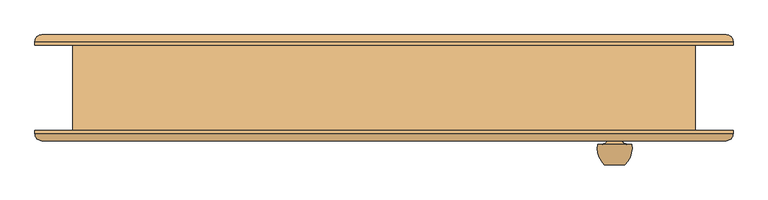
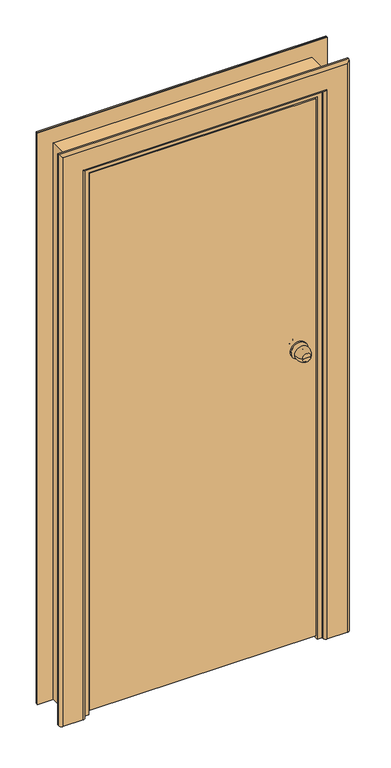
"""IFC4 building model written with IfcOpenShell, lengths in millimetres: door geometry, Внутренняя дверь 1-Навесная - 6629-88 : ДГ 21-9Л  ГОСТ 6629-88."""

from ifc_helpers import new_model, si_unit, point, frame, origin, place, context, project, spatial, polyline, circle_curve, ellipse_curve, trimmed, outline, extrude, faceted_brep, source, transform, mapped, element, save
from ifc_brep_helpers import plane_surface, cylinder_surface, revolved_surface, advanced_brep


def door_d1ce50e7(model_context):
    return source(origin(), model_context, "Body", "SolidModel", [
        advanced_brep(
        [(352.0, -112.5, 1100.0), (322.0, -112.5, 1100.0), (337.0, -112.5, 1100.0), (362.0, -82.5, 1100.0), (312.0, -82.5, 1100.0), (355.0, -82.5, 1100.0), (319.0, -82.5, 1100.0), (347.0, -74.5, 1100.0), (327.0, -74.5, 1100.0), (347.0, -68.5, 1100.0), (327.0, -68.5, 1100.0), (307.0, -68.5, 1100.0), (367.0, -68.5, 1100.0), (307.0, -62.5, 1100.0), (367.0, -62.5, 1100.0)],
        [
            (0, 1, circle_curve(frame((337.0, -112.5, 1100.0), z_axis=(0.0, -1.0, 0.0), x_axis=(-1.0, 0.0, 0.0)), 15.0)),
            (1, 2),
            (2, 0),
            (1, 0, circle_curve(frame((337.0, -112.5, 1100.0), z_axis=(0.0, -1.0, 0.0), x_axis=(-1.0, 0.0, 0.0)), 15.0)),
            (0, 3, circle_curve(frame((327.3773735, -87.6257912, 1100.0), z_axis=(0.0, 0.0, 1.0), x_axis=(-1.0, 0.0, 0.0)), 35.0)),
            (3, 4, circle_curve(frame((337.0, -82.5, 1100.0), z_axis=(0.0, -1.0, 0.0), x_axis=(-1.0, 0.0, 0.0)), 25.0)),
            (4, 1, circle_curve(frame((346.6226265, -87.6257912, 1100.0), z_axis=(0.0, 0.0, 1.0), x_axis=(1.0, 0.0, 0.0)), 35.0)),
            (4, 3, circle_curve(frame((337.0, -82.5, 1100.0), z_axis=(0.0, -1.0, 0.0), x_axis=(-1.0, 0.0, 0.0)), 25.0)),
            (3, 5),
            (5, 6, circle_curve(frame((337.0, -82.5, 1100.0), z_axis=(0.0, -1.0, 0.0), x_axis=(-1.0, 0.0, 0.0)), 18.0)),
            (6, 4),
            (6, 5, circle_curve(frame((337.0, -82.5, 1100.0), z_axis=(0.0, -1.0, 0.0), x_axis=(-1.0, 0.0, 0.0)), 18.0)),
            (5, 7, circle_curve(frame((355.0, -74.5, 1100.0), z_axis=(0.0, 0.0, -1.0), x_axis=(-1.0, 0.0, 0.0)), 8.0)),
            (7, 8, circle_curve(frame((337.0, -74.5, 1100.0), z_axis=(0.0, -1.0, 0.0), x_axis=(-1.0, 0.0, 0.0)), 10.0)),
            (8, 6, circle_curve(frame((319.0, -74.5, 1100.0), z_axis=(0.0, 0.0, -1.0), x_axis=(1.0, 0.0, 0.0)), 8.0)),
            (8, 7, circle_curve(frame((337.0, -74.5, 1100.0), z_axis=(0.0, -1.0, 0.0), x_axis=(-1.0, 0.0, 0.0)), 10.0)),
            (7, 9),
            (9, 10, circle_curve(frame((337.0, -68.5, 1100.0), z_axis=(0.0, -1.0, 0.0), x_axis=(-1.0, 0.0, 0.0)), 10.0)),
            (10, 8),
            (10, 9, circle_curve(frame((337.0, -68.5, 1100.0), z_axis=(0.0, -1.0, 0.0), x_axis=(-1.0, 0.0, 0.0)), 10.0)),
            (11, 12, circle_curve(frame((337.0, -68.5, 1100.0), z_axis=(0.0, -1.0, 0.0), x_axis=(1.0, 0.0, 0.0)), 30.0)),
            (12, 11, circle_curve(frame((337.0, -68.5, 1100.0), z_axis=(0.0, -1.0, 0.0), x_axis=(1.0, 0.0, 0.0)), 30.0)),
            (13, 14, circle_curve(frame((337.0, -62.5, 1100.0), z_axis=(0.0, 1.0, 0.0), x_axis=(1.0, 0.0, 0.0)), 30.0)),
            (14, 13, circle_curve(frame((337.0, -62.5, 1100.0), z_axis=(0.0, 1.0, 0.0), x_axis=(1.0, 0.0, 0.0)), 30.0)),
            (11, 13),
            (14, 12),
        ],
        [
            plane_surface(frame((337.0, -112.5, 1100.0), z_axis=(0.0, -1.0, 0.0), x_axis=(-1.0, 0.0, 0.0))),
            revolved_surface(trimmed(ellipse_curve(frame((346.6226265, -87.6257912, 1100.0), z_axis=(0.0, 0.0, -1.0), x_axis=(1.0, 0.0, 0.0)), 35.0, 35.0), [point((322.0, -112.5, 1100.0))], [point((312.0, -82.5, 1100.0))], True, "CARTESIAN"), (337.0, -142.5, 1100.0), (0.0, 1.0, 0.0)),
            plane_surface(frame((337.0, -82.5, 1100.0), z_axis=(0.0, 1.0, 0.0), x_axis=(-1.0, 0.0, 0.0))),
            revolved_surface(trimmed(ellipse_curve(frame((319.0, -74.5, 1100.0), z_axis=(0.0, 0.0, 1.0), x_axis=(1.0, 0.0, 0.0)), 8.0, 8.0), [point((319.0, -82.5, 1100.0))], [point((327.0, -74.5, 1100.0))], True, "CARTESIAN"), (337.0, -142.5, 1100.0), (0.0, 1.0, 0.0)),
            cylinder_surface(frame((337.0, -142.5, 1100.0), z_axis=(0.0, 1.0, 0.0), x_axis=(-1.0, 0.0, 0.0)), 10.0),
            plane_surface(frame((367.0, -68.5, 1100.0), z_axis=(0.0, -1.0, 0.0), x_axis=(0.0, 0.0, 1.0))),
            plane_surface(frame((367.0, -62.5, 1100.0), z_axis=(0.0, 1.0, 0.0), x_axis=(0.0, 0.0, -1.0))),
            cylinder_surface(frame((337.0, -62.5, 1100.0), z_axis=(0.0, -1.0, 0.0), x_axis=(1.0, 0.0, 0.0)), 30.0),
        ],
        [
            (0, [[1, 2, 3]]),
            (0, [[-2, 4, -3]]),
            (1, [[-1, 5, 6, 7]]),
            (1, [[-4, -7, 8, -5]]),
            (2, [[-6, 9, 10, 11]]),
            (2, [[-8, -11, 12, -9]]),
            (3, [[-10, 13, 14, 15]]),
            (3, [[-12, -15, 16, -13]]),
            (4, [[-14, 17, 18, 19]]),
            (4, [[-16, -19, 20, -17]]),
            (5, [[21, 22], [-18, -20]]),
            (6, [[23, 24]]),
            (7, [[-21, 25, -24, 26]]),
            (7, [[-22, -26, -23, -25]]),
        ],
    ),
        advanced_brep(
        [(322.0, 24.5, 1100.0), (352.0, 24.5, 1100.0), (337.0, 24.5, 1100.0), (312.0, -5.5, 1100.0), (362.0, -5.5, 1100.0), (319.0, -5.5, 1100.0), (355.0, -5.5, 1100.0), (327.0, -13.5, 1100.0), (347.0, -13.5, 1100.0), (327.0, -19.5, 1100.0), (347.0, -19.5, 1100.0), (367.0, -19.5, 1100.0), (307.0, -19.5, 1100.0), (367.0, -25.5, 1100.0), (307.0, -25.5, 1100.0)],
        [
            (0, 1, circle_curve(frame((337.0, 24.5, 1100.0), z_axis=(0.0, 1.0, 0.0), x_axis=(1.0, 0.0, 0.0)), 15.0)),
            (1, 2),
            (2, 0),
            (1, 0, circle_curve(frame((337.0, 24.5, 1100.0), z_axis=(0.0, 1.0, 0.0), x_axis=(1.0, 0.0, 0.0)), 15.0)),
            (0, 3, circle_curve(frame((346.6226265, -0.3742088, 1100.0), z_axis=(0.0, 0.0, 1.0), x_axis=(1.0, 0.0, 0.0)), 35.0)),
            (3, 4, circle_curve(frame((337.0, -5.5, 1100.0), z_axis=(0.0, 1.0, 0.0), x_axis=(1.0, 0.0, 0.0)), 25.0)),
            (4, 1, circle_curve(frame((327.3773735, -0.3742088, 1100.0), z_axis=(0.0, 0.0, 1.0), x_axis=(-1.0, 0.0, 0.0)), 35.0)),
            (4, 3, circle_curve(frame((337.0, -5.5, 1100.0), z_axis=(0.0, 1.0, 0.0), x_axis=(1.0, 0.0, 0.0)), 25.0)),
            (3, 5),
            (5, 6, circle_curve(frame((337.0, -5.5, 1100.0), z_axis=(0.0, 1.0, 0.0), x_axis=(1.0, 0.0, 0.0)), 18.0)),
            (6, 4),
            (6, 5, circle_curve(frame((337.0, -5.5, 1100.0), z_axis=(0.0, 1.0, 0.0), x_axis=(1.0, 0.0, 0.0)), 18.0)),
            (5, 7, circle_curve(frame((319.0, -13.5, 1100.0), z_axis=(0.0, 0.0, -1.0), x_axis=(1.0, 0.0, 0.0)), 8.0)),
            (7, 8, circle_curve(frame((337.0, -13.5, 1100.0), z_axis=(0.0, 1.0, 0.0), x_axis=(1.0, 0.0, 0.0)), 10.0)),
            (8, 6, circle_curve(frame((355.0, -13.5, 1100.0), z_axis=(0.0, 0.0, -1.0), x_axis=(-1.0, 0.0, 0.0)), 8.0)),
            (8, 7, circle_curve(frame((337.0, -13.5, 1100.0), z_axis=(0.0, 1.0, 0.0), x_axis=(1.0, 0.0, 0.0)), 10.0)),
            (7, 9),
            (9, 10, circle_curve(frame((337.0, -19.5, 1100.0), z_axis=(0.0, 1.0, 0.0), x_axis=(1.0, 0.0, 0.0)), 10.0)),
            (10, 8),
            (10, 9, circle_curve(frame((337.0, -19.5, 1100.0), z_axis=(0.0, 1.0, 0.0), x_axis=(1.0, 0.0, 0.0)), 10.0)),
            (11, 12, circle_curve(frame((337.0, -19.5, 1100.0), z_axis=(0.0, 1.0, 0.0), x_axis=(-1.0, 0.0, 0.0)), 30.0)),
            (12, 11, circle_curve(frame((337.0, -19.5, 1100.0), z_axis=(0.0, 1.0, 0.0), x_axis=(-1.0, 0.0, 0.0)), 30.0)),
            (13, 14, circle_curve(frame((337.0, -25.5, 1100.0), z_axis=(0.0, -1.0, 0.0), x_axis=(-1.0, 0.0, 0.0)), 30.0)),
            (14, 13, circle_curve(frame((337.0, -25.5, 1100.0), z_axis=(0.0, -1.0, 0.0), x_axis=(-1.0, 0.0, 0.0)), 30.0)),
            (11, 13),
            (14, 12),
        ],
        [
            plane_surface(frame((337.0, 24.5, 1100.0), z_axis=(0.0, 1.0, 0.0), x_axis=(1.0, 0.0, 0.0))),
            revolved_surface(trimmed(ellipse_curve(frame((327.3773735, -0.3742088, 1100.0), z_axis=(0.0, 0.0, -1.0), x_axis=(-1.0, 0.0, 0.0)), 35.0, 35.0), [point((352.0, 24.5, 1100.0))], [point((362.0, -5.5, 1100.0))], True, "CARTESIAN"), (337.0, 54.5, 1100.0), (0.0, -1.0, 0.0)),
            plane_surface(frame((337.0, -5.5, 1100.0), z_axis=(0.0, -1.0, 0.0), x_axis=(1.0, 0.0, 0.0))),
            revolved_surface(trimmed(ellipse_curve(frame((355.0, -13.5, 1100.0), z_axis=(0.0, 0.0, 1.0), x_axis=(-1.0, 0.0, 0.0)), 8.0, 8.0), [point((355.0, -5.5, 1100.0))], [point((347.0, -13.5, 1100.0))], True, "CARTESIAN"), (337.0, 54.5, 1100.0), (0.0, -1.0, 0.0)),
            cylinder_surface(frame((337.0, 54.5, 1100.0), z_axis=(0.0, -1.0, 0.0), x_axis=(1.0, 0.0, 0.0)), 10.0),
            plane_surface(frame((307.0, -19.5, 1100.0), z_axis=(0.0, 1.0, 0.0), x_axis=(0.0, 0.0, 1.0))),
            plane_surface(frame((307.0, -25.5, 1100.0), z_axis=(0.0, -1.0, 0.0), x_axis=(0.0, 0.0, -1.0))),
            cylinder_surface(frame((337.0, -25.5, 1100.0), z_axis=(0.0, 1.0, 0.0), x_axis=(-1.0, 0.0, 0.0)), 30.0),
        ],
        [
            (0, [[1, 2, 3]]),
            (0, [[-2, 4, -3]]),
            (1, [[-1, 5, 6, 7]]),
            (1, [[-4, -7, 8, -5]]),
            (2, [[-6, 9, 10, 11]]),
            (2, [[-8, -11, 12, -9]]),
            (3, [[-10, 13, 14, 15]]),
            (3, [[-12, -15, 16, -13]]),
            (4, [[-14, 17, 18, 19]]),
            (4, [[-16, -19, 20, -17]]),
            (5, [[21, 22], [-18, -20]]),
            (6, [[23, 24]]),
            (7, [[-21, 25, -24, 26]]),
            (7, [[-22, -26, -23, -25]]),
        ],
    ),
        extrude(outline(polyline([(0.0, 420.0), (0.0, 435.0), (2050.0, 435.0), (2050.0, -435.0), (0.0, -435.0), (0.0, -420.0), (2035.0, -420.0), (2035.0, 420.0), (0.0, 420.0)])), frame((0.0, 11.5, 0.0), z_axis=(0.0, 1.0, 0.0), x_axis=(0.0, 0.0, 1.0)), (0.0, 0.0, 1.0), 51.0),
        advanced_brep(
        [(-510.0, -62.5, 0.0), (-420.0, -62.5, 0.0), (-420.0, -67.5, 0.0), (-430.0, -77.5, 0.0), (-500.0, -77.5, 0.0), (-510.0, -67.5, 0.0), (-510.0, -62.5, 2125.0), (510.0, -62.5, 2125.0), (510.0, -62.5, 0.0), (420.0, -62.5, 0.0), (420.0, -62.5, 2035.0), (-420.0, -62.5, 2035.0), (-420.0, -67.5, 2035.0), (-430.0, -77.5, 2045.0), (430.0, -77.5, 2045.0), (430.0, -77.5, 0.0), (500.0, -77.5, 0.0), (500.0, -77.5, 2115.0), (-500.0, -77.5, 2115.0), (-510.0, -67.5, 2125.0), (510.0, -67.5, 2125.0), (510.0, -67.5, 0.0), (420.0, -67.5, 0.0), (420.0, -67.5, 2035.0)],
        [
            (0, 1),
            (1, 2),
            (2, 3, circle_curve(frame((-430.0, -67.5, 0.0), z_axis=(0.0, 0.0, -1.0), x_axis=(-1.0, 0.0, 0.0)), 10.0)),
            (3, 4),
            (4, 5, circle_curve(frame((-500.0, -67.5, 0.0), z_axis=(0.0, 0.0, -1.0), x_axis=(-1.0, 0.0, 0.0)), 10.0)),
            (5, 0),
            (0, 6),
            (6, 7),
            (7, 8),
            (8, 9),
            (9, 10),
            (10, 11),
            (11, 1),
            (11, 12),
            (12, 2),
            (12, 13, ellipse_curve(frame((-430.0, -67.5, 2045.0), z_axis=(-0.7071067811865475, 0.0, -0.7071067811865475), x_axis=(0.7071067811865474, 0.0, -0.7071067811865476)), 14.1421356, 10.0)),
            (13, 3),
            (13, 14),
            (14, 15),
            (15, 16),
            (16, 17),
            (17, 18),
            (18, 4),
            (18, 19, ellipse_curve(frame((-500.0, -67.5, 2115.0), z_axis=(-0.7071067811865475, 0.0, -0.7071067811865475), x_axis=(0.7071067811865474, 0.0, -0.7071067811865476)), 14.1421356, 10.0)),
            (19, 5),
            (19, 6),
            (7, 20),
            (20, 21),
            (21, 8),
            (21, 16, circle_curve(frame((500.0, -67.5, 0.0), z_axis=(0.0, 0.0, -1.0), x_axis=(1.0, 0.0, 0.0)), 10.0)),
            (15, 22, circle_curve(frame((430.0, -67.5, 0.0), z_axis=(0.0, 0.0, -1.0), x_axis=(1.0, 0.0, 0.0)), 10.0)),
            (22, 9),
            (23, 10),
            (22, 23),
            (14, 23, ellipse_curve(frame((430.0, -67.5, 2045.0), z_axis=(0.7071067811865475, 0.0, -0.7071067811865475), x_axis=(0.7071067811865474, 0.0, 0.7071067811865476)), 14.1421356, 10.0)),
            (20, 17, ellipse_curve(frame((500.0, -67.5, 2115.0), z_axis=(0.7071067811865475, 0.0, -0.7071067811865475), x_axis=(0.7071067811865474, 0.0, 0.7071067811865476)), 14.1421356, 10.0)),
            (23, 12),
            (20, 19),
        ],
        [
            plane_surface(frame((-455.0, -62.5, 0.0), z_axis=(0.0, 0.0, -1.0), x_axis=(0.0, 1.0, 0.0))),
            plane_surface(frame((-510.0, -62.5, 0.0), z_axis=(0.0, 1.0, 0.0), x_axis=(0.0, 0.0, 1.0))),
            plane_surface(frame((-420.0, -62.5, 0.0), z_axis=(1.0, 0.0, 0.0), x_axis=(0.0, 0.0, 1.0))),
            cylinder_surface(frame((-430.0, -67.5, 0.0), z_axis=(0.0, 0.0, -1.0), x_axis=(-1.0, 0.0, 0.0)), 10.0),
            plane_surface(frame((-430.0, -77.5, 0.0), z_axis=(0.0, -1.0, 0.0), x_axis=(0.0, 0.0, 1.0))),
            cylinder_surface(frame((-500.0, -67.5, 0.0), z_axis=(0.0, 0.0, -1.0), x_axis=(-1.0, 0.0, 0.0)), 10.0),
            plane_surface(frame((-510.0, -67.5, 0.0), z_axis=(-1.0, 0.0, 0.0), x_axis=(0.0, 0.0, 1.0))),
            plane_surface(frame((510.0, -67.5, 2125.0), z_axis=(1.0, 0.0, 0.0), x_axis=(0.0, 0.0, -1.0))),
            plane_surface(frame((455.0, -62.5, 0.0), z_axis=(0.0, 0.0, -1.0), x_axis=(0.0, 1.0, 0.0))),
            plane_surface(frame((420.0, -62.5, 2035.0), z_axis=(-1.0, 0.0, 0.0), x_axis=(0.0, 0.0, -1.0))),
            cylinder_surface(frame((430.0, -67.5, 2070.0), z_axis=(0.0, 0.0, 1.0), x_axis=(1.0, 0.0, 0.0)), 10.0),
            cylinder_surface(frame((500.0, -67.5, 2070.0), z_axis=(0.0, 0.0, 1.0), x_axis=(1.0, 0.0, 0.0)), 10.0),
            plane_surface(frame((-420.0, -62.5, 2035.0), z_axis=(0.0, 0.0, -1.0), x_axis=(1.0, 0.0, 0.0))),
            cylinder_surface(frame((-455.0, -67.5, 2045.0), z_axis=(-1.0, 0.0, 0.0), x_axis=(0.0, 0.0, 1.0)), 10.0),
            cylinder_surface(frame((-455.0, -67.5, 2115.0), z_axis=(-1.0, 0.0, 0.0), x_axis=(0.0, 0.0, 1.0)), 10.0),
            plane_surface(frame((-510.0, -67.5, 2125.0), z_axis=(0.0, 0.0, 1.0), x_axis=(1.0, 0.0, 0.0))),
        ],
        [
            (0, [[1, 2, 3, 4, 5, 6]]),
            (1, [[-1, 7, 8, 9, 10, 11, 12, 13]]),
            (2, [[-2, -13, 14, 15]]),
            (3, [[-3, -15, 16, 17]]),
            (4, [[-4, -17, 18, 19, 20, 21, 22, 23]]),
            (5, [[-5, -23, 24, 25]]),
            (6, [[-6, -25, 26, -7]]),
            (7, [[27, 28, 29, -9]]),
            (8, [[-29, 30, -20, 31, 32, -10]]),
            (9, [[33, -11, -32, 34]]),
            (10, [[35, -34, -31, -19]]),
            (11, [[36, -21, -30, -28]]),
            (12, [[-14, -12, -33, 37]]),
            (13, [[-16, -37, -35, -18]]),
            (14, [[-24, -22, -36, 38]]),
            (15, [[-26, -38, -27, -8]]),
        ],
    ),
        advanced_brep(
        [(510.0, 62.5, 0.0), (420.0, 62.5, 0.0), (420.0, 67.5, 0.0), (430.0, 77.5, 0.0), (500.0, 77.5, 0.0), (510.0, 67.5, 0.0), (510.0, 62.5, 2125.0), (-510.0, 62.5, 2125.0), (-510.0, 62.5, 0.0), (-420.0, 62.5, 0.0), (-420.0, 62.5, 2035.0), (420.0, 62.5, 2035.0), (420.0, 67.5, 2035.0), (430.0, 77.5, 2045.0), (-430.0, 77.5, 2045.0), (-430.0, 77.5, 0.0), (-500.0, 77.5, 0.0), (-500.0, 77.5, 2115.0), (500.0, 77.5, 2115.0), (510.0, 67.5, 2125.0), (-510.0, 67.5, 2125.0), (-510.0, 67.5, 0.0), (-420.0, 67.5, 0.0), (-420.0, 67.5, 2035.0)],
        [
            (0, 1),
            (1, 2),
            (2, 3, circle_curve(frame((430.0, 67.5, 0.0), z_axis=(0.0, 0.0, -1.0), x_axis=(1.0, 0.0, 0.0)), 10.0)),
            (3, 4),
            (4, 5, circle_curve(frame((500.0, 67.5, 0.0), z_axis=(0.0, 0.0, -1.0), x_axis=(1.0, 0.0, 0.0)), 10.0)),
            (5, 0),
            (0, 6),
            (6, 7),
            (7, 8),
            (8, 9),
            (9, 10),
            (10, 11),
            (11, 1),
            (11, 12),
            (12, 2),
            (12, 13, ellipse_curve(frame((430.0, 67.5, 2045.0), z_axis=(0.7071067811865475, 0.0, -0.7071067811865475), x_axis=(-0.7071067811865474, 0.0, -0.7071067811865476)), 14.1421356, 10.0)),
            (13, 3),
            (13, 14),
            (14, 15),
            (15, 16),
            (16, 17),
            (17, 18),
            (18, 4),
            (18, 19, ellipse_curve(frame((500.0, 67.5, 2115.0), z_axis=(0.7071067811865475, 0.0, -0.7071067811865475), x_axis=(-0.7071067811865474, 0.0, -0.7071067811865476)), 14.1421356, 10.0)),
            (19, 5),
            (19, 6),
            (7, 20),
            (20, 21),
            (21, 8),
            (21, 16, circle_curve(frame((-500.0, 67.5, 0.0), z_axis=(0.0, 0.0, -1.0), x_axis=(-1.0, 0.0, 0.0)), 10.0)),
            (15, 22, circle_curve(frame((-430.0, 67.5, 0.0), z_axis=(0.0, 0.0, -1.0), x_axis=(-1.0, 0.0, 0.0)), 10.0)),
            (22, 9),
            (23, 10),
            (22, 23),
            (14, 23, ellipse_curve(frame((-430.0, 67.5, 2045.0), z_axis=(-0.7071067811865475, 0.0, -0.7071067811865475), x_axis=(-0.7071067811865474, 0.0, 0.7071067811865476)), 14.1421356, 10.0)),
            (20, 17, ellipse_curve(frame((-500.0, 67.5, 2115.0), z_axis=(-0.7071067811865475, 0.0, -0.7071067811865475), x_axis=(-0.7071067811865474, 0.0, 0.7071067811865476)), 14.1421356, 10.0)),
            (23, 12),
            (20, 19),
        ],
        [
            plane_surface(frame((455.0, 62.5, 0.0), z_axis=(0.0, 0.0, -1.0), x_axis=(0.0, -1.0, 0.0))),
            plane_surface(frame((510.0, 62.5, 0.0), z_axis=(0.0, -1.0, 0.0), x_axis=(0.0, 0.0, 1.0))),
            plane_surface(frame((420.0, 62.5, 0.0), z_axis=(-1.0, 0.0, 0.0), x_axis=(0.0, 0.0, 1.0))),
            cylinder_surface(frame((430.0, 67.5, 0.0), z_axis=(0.0, 0.0, -1.0), x_axis=(1.0, 0.0, 0.0)), 10.0),
            plane_surface(frame((430.0, 77.5, 0.0), z_axis=(0.0, 1.0, 0.0), x_axis=(0.0, 0.0, 1.0))),
            cylinder_surface(frame((500.0, 67.5, 0.0), z_axis=(0.0, 0.0, -1.0), x_axis=(1.0, 0.0, 0.0)), 10.0),
            plane_surface(frame((510.0, 67.5, 0.0), z_axis=(1.0, 0.0, 0.0), x_axis=(0.0, 0.0, 1.0))),
            plane_surface(frame((-510.0, 67.5, 2125.0), z_axis=(-1.0, 0.0, 0.0), x_axis=(0.0, 0.0, -1.0))),
            plane_surface(frame((-455.0, 62.5, 0.0), z_axis=(0.0, 0.0, -1.0), x_axis=(0.0, -1.0, 0.0))),
            plane_surface(frame((-420.0, 62.5, 2035.0), z_axis=(1.0, 0.0, 0.0), x_axis=(0.0, 0.0, -1.0))),
            cylinder_surface(frame((-430.0, 67.5, 2070.0), z_axis=(0.0, 0.0, 1.0), x_axis=(-1.0, 0.0, 0.0)), 10.0),
            cylinder_surface(frame((-500.0, 67.5, 2070.0), z_axis=(0.0, 0.0, 1.0), x_axis=(-1.0, 0.0, 0.0)), 10.0),
            plane_surface(frame((420.0, 62.5, 2035.0), z_axis=(0.0, 0.0, -1.0), x_axis=(-1.0, 0.0, 0.0))),
            cylinder_surface(frame((455.0, 67.5, 2045.0), z_axis=(1.0, 0.0, 0.0), x_axis=(0.0, 0.0, 1.0)), 10.0),
            cylinder_surface(frame((455.0, 67.5, 2115.0), z_axis=(1.0, 0.0, 0.0), x_axis=(0.0, 0.0, 1.0)), 10.0),
            plane_surface(frame((510.0, 67.5, 2125.0), z_axis=(0.0, 0.0, 1.0), x_axis=(-1.0, 0.0, 0.0))),
        ],
        [
            (0, [[1, 2, 3, 4, 5, 6]]),
            (1, [[-1, 7, 8, 9, 10, 11, 12, 13]]),
            (2, [[-2, -13, 14, 15]]),
            (3, [[-3, -15, 16, 17]]),
            (4, [[-4, -17, 18, 19, 20, 21, 22, 23]]),
            (5, [[-5, -23, 24, 25]]),
            (6, [[-6, -25, 26, -7]]),
            (7, [[27, 28, 29, -9]]),
            (8, [[-29, 30, -20, 31, 32, -10]]),
            (9, [[33, -11, -32, 34]]),
            (10, [[35, -34, -31, -19]]),
            (11, [[36, -21, -30, -28]]),
            (12, [[-14, -12, -33, 37]]),
            (13, [[-16, -37, -35, -18]]),
            (14, [[-24, -22, -36, 38]]),
            (15, [[-26, -38, -27, -8]]),
        ],
    ),
        faceted_brep([(390.0, 11.5, 0.0), (435.0, 11.5, 0.0), (435.0, -62.5, 0.0), (402.0, -62.5, 0.0), (402.0, -20.5, 0.0), (390.0, -20.5, 0.0), (390.0, 11.5, 2005.0), (-390.0, 11.5, 2005.0), (-390.0, 11.5, 0.0), (-435.0, 11.5, 0.0), (-435.0, 11.5, 2050.0), (435.0, 11.5, 2050.0), (435.0, -62.5, 2050.0), (-435.0, -62.5, 2050.0), (-435.0, -62.5, 0.0), (-402.0, -62.5, 0.0), (-402.0, -62.5, 2017.0), (402.0, -62.5, 2017.0), (402.0, -20.5, 2017.0), (-402.0, -20.5, 2017.0), (-402.0, -20.5, 0.0), (-390.0, -20.5, 0.0), (-390.0, -20.5, 2005.0), (390.0, -20.5, 2005.0)], [[[0, 1, 2, 3, 4, 5]], [[1, 0, 6, 7, 8, 9, 10, 11]], [[2, 1, 11, 12]], [[3, 2, 12, 13, 14, 15, 16, 17]], [[4, 3, 17, 18]], [[5, 4, 18, 19, 20, 21, 22, 23]], [[0, 5, 23, 6]], [[7, 22, 21, 8]], [[8, 21, 20, 15, 14, 9]], [[13, 10, 9, 14]], [[19, 16, 15, 20]], [[12, 11, 10, 13]], [[18, 17, 16, 19]], [[6, 23, 22, 7]]]),
        extrude(outline(polyline([(0.0, 435.0), (0.0, 455.0), (2070.0, 455.0), (2070.0, -455.0), (0.0, -455.0), (0.0, -435.0), (2050.0, -435.0), (2050.0, 435.0), (0.0, 435.0)])), frame((0.0, -62.5, 0.0), z_axis=(0.0, 1.0, 0.0), x_axis=(0.0, 0.0, 1.0)), (0.0, 0.0, 1.0), 125.0),
        extrude(outline(polyline([(397.0, -25.5), (397.0, -62.5), (-397.0, -62.5), (-397.0, -25.5), (397.0, -25.5)])), frame((0.0, 0.0, 15.0), z_axis=(0.0, 0.0, 1.0), x_axis=(1.0, 0.0, 0.0)), (0.0, 0.0, 1.0), 1997.0),
    ])


if __name__ == "__main__":
    model = new_model("IFC4")
    model_context = context("Model", 3, world=origin())
    ifc_project = project(units=[si_unit("LENGTHUNIT", "METRE", prefix="MILLI")], contexts=[model_context])
    site = spatial("IfcSite", under=ifc_project)
    building = spatial("IfcBuilding", under=site)
    placement = place(None, origin())
    door_shape = door_d1ce50e7(model_context)
    element("IfcDoor", 1, ObjectType="Внутренняя дверь 1-Навесная - 6629-88 : ДГ 21-9Л  ГОСТ 6629-88", at=placement, inside=building, context=model_context, shape_type="MappedRepresentation", body=[
        mapped(door_shape, transform((0.0, 0.0, 0.0), x_axis=(1.0, 0.0, 0.0), y_axis=(0.0, 1.0, 0.0), z_axis=(0.0, 0.0, 1.0))),
    ])
    save(model, "model.ifc")
